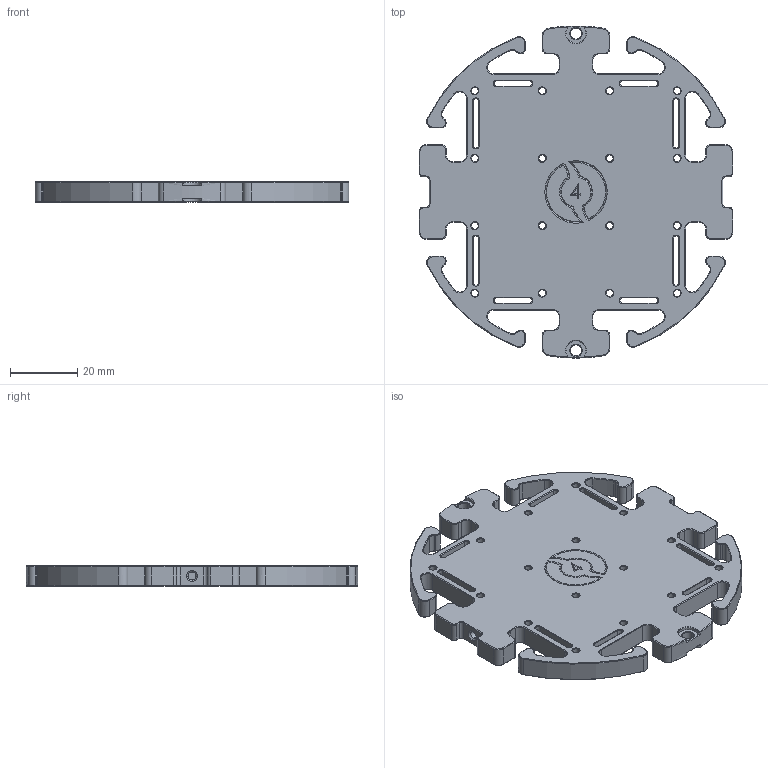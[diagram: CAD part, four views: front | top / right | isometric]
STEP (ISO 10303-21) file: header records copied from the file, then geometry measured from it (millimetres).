
FILE_DESCRIPTION (( 'STEP AP214' ), '1' );
FILE_NAME ('BR-103131-400_Rev_2.step', '2024-12-10T18:59:28', ( '' ), ( '' ), 'SwSTEP 2.0', 'SolidWorks 2024', '' );
FILE_SCHEMA (( 'AUTOMOTIVE_DESIGN' ));
Length unit declared in the file: millimetre
Products named in the file (1): BR-103131-400_Rev_2
Bounding box: 93 x 98.48 x 6 mm (x, y, z)
Volume: 35428.4 mm3; surface area: 18134.5 mm2
Topology: 1 solids, 1 shells, 781 faces, 1852 edges, 1078 vertices
Faces by surface type: cone 348, plane 247, cylinder 178, bspline 8
Entity records: 22815 total; most frequent: CARTESIAN_POINT 4390, DIRECTION 4090, ORIENTED_EDGE 3704, EDGE_CURVE 1852, AXIS2_PLACEMENT_3D 1506, VERTEX_POINT 1078, LINE 1078, VECTOR 1078
